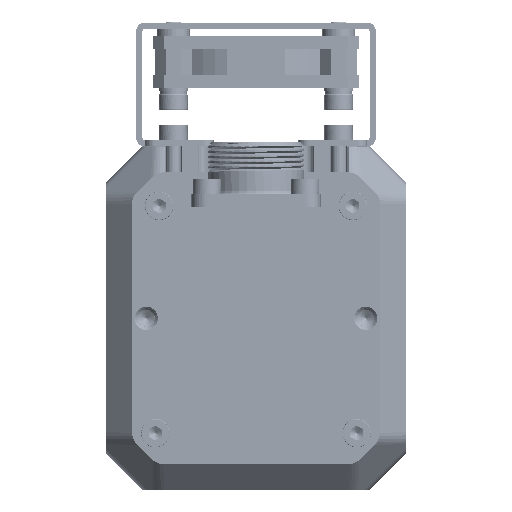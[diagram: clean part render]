
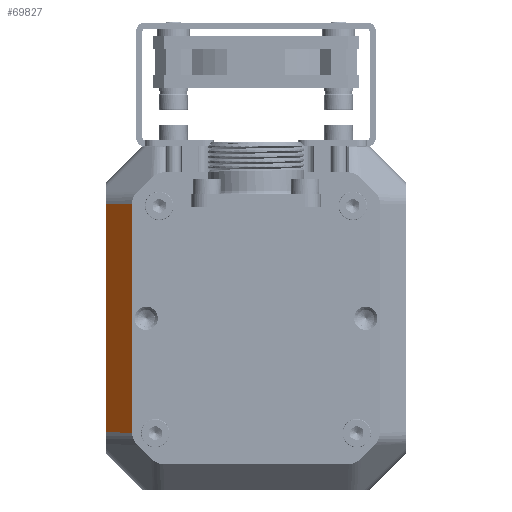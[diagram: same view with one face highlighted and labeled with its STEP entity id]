
A CAD part, front view. The second image highlights one B-rep face of the part: STEP entity #69827.
In plain terms, the highlighted planar face has unit normal (-0.707, -0.707, 0) as drawn and (0.707, 0, 0.707) by its records, which use the part's own axes.
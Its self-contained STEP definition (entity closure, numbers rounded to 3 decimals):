
#63643=DIRECTION('',(0.,1.,0.));
#63644=VECTOR('',#63643,44.094);
#63645=CARTESIAN_POINT('',(29.,-55.297,-5.));
#63646=LINE('',#63645,#63644);
#64492=CARTESIAN_POINT('',(29.,-55.297,-5.));
#64502=DIRECTION('',(-0.707,-0.02,0.707));
#64503=VECTOR('',#64502,7.072);
#64504=CARTESIAN_POINT('',(29.,-55.297,-5.));
#64505=LINE('',#64504,#64503);
#64509=DIRECTION('',(0.,1.,0.));
#64510=VECTOR('',#64509,44.371);
#64511=CARTESIAN_POINT('',(24.,-55.435,0.));
#64512=LINE('',#64511,#64510);
#64516=DIRECTION('',(0.707,-0.02,-0.707));
#64517=VECTOR('',#64516,7.072);
#64518=CARTESIAN_POINT('',(24.,-11.065,0.));
#64519=LINE('',#64518,#64517);
#64523=CARTESIAN_POINT('',(24.,-11.065,0.));
#66130=VERTEX_POINT('',#64523);
#66131=CARTESIAN_POINT('',(24.,-55.435,0.));
#66132=VERTEX_POINT('',#66131);
#66797=VERTEX_POINT('',#64492);
#66798=CARTESIAN_POINT('',(29.,-11.203,-5.));
#66799=VERTEX_POINT('',#66798);
#69815=CARTESIAN_POINT('',(26.5,-33.25,-2.5));
#69816=DIRECTION('',(0.707,0.,0.707));
#69817=DIRECTION('',(0.707,0.,-0.707));
#69818=AXIS2_PLACEMENT_3D('',#69815,#69816,#69817);
#69819=PLANE('',#69818);
#69820=ORIENTED_EDGE('',*,*,#68997,.F.);
#69821=ORIENTED_EDGE('',*,*,#69808,.T.);
#69822=ORIENTED_EDGE('',*,*,#67073,.T.);
#69824=ORIENTED_EDGE('',*,*,#69823,.T.);
#69825=EDGE_LOOP('',(#69820,#69821,#69822,#69824));
#69826=FACE_OUTER_BOUND('',#69825,.F.);
#67073=EDGE_CURVE('',#66132,#66130,#64512,.T.);
#68997=EDGE_CURVE('',#66797,#66799,#63646,.T.);
#69808=EDGE_CURVE('',#66797,#66132,#64505,.T.);
#69823=EDGE_CURVE('',#66130,#66799,#64519,.T.);
#69827=ADVANCED_FACE('',(#69826),#69819,.T.);
